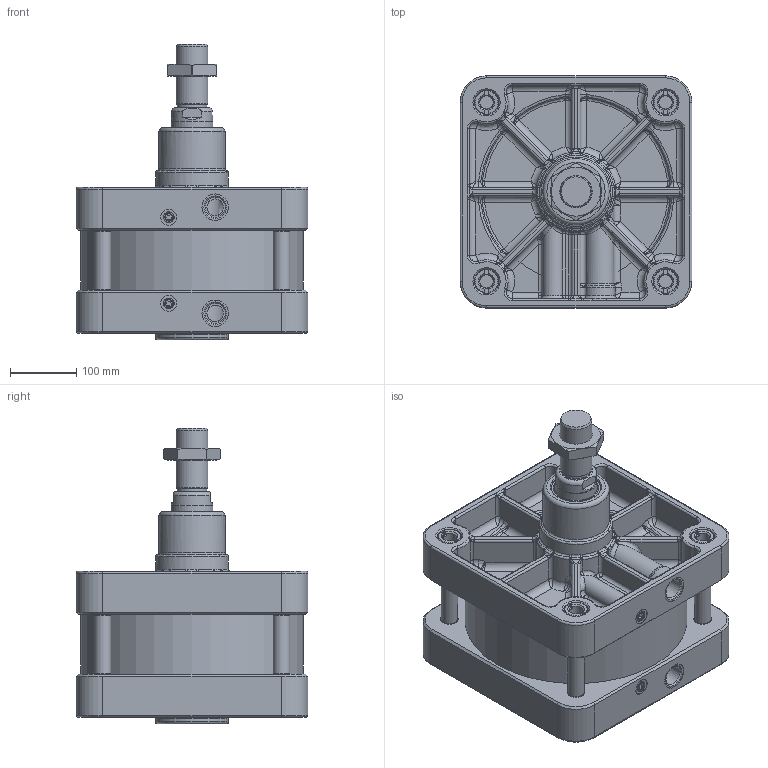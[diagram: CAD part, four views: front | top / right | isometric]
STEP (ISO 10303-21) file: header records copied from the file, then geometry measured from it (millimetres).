
FILE_DESCRIPTION(/* description */ (''),/* implementation_level */ '2;1');
FILE_NAME(/* name */ 'T:\Archivio Inventor\- 00 NUOVI STP PER SITO CON STELO CHE SI MUOVE\SERIE H - U\SERIE UDM\UDM320.---.GS.M\UDM320.000.GS.M.stp',/* time_stamp */ '2020-04-29T16:26:35+02:00',/* author */ ('carlo.corazza'),/* organization */ (''),/* preprocessor_version */ 'ST-DEVELOPER v16.5',/* originating_system */ 'Autodesk Inventor 2017',/* authorisation */ '');
FILE_SCHEMA (('AUTOMOTIVE_DESIGN { 1 0 10303 214 3 1 1 }'));
Length unit declared in the file: millimetre
Products named in the file (7): UDM320.000.GS.M; TP; STELO-000; TA; CORPO-000; TIRANTE-000; 29.2048.000.0
Assembly tree (9 placements, depth 2):
  UDM320.000.GS.M
    TP
    STELO-000
    TA
    TIRANTE-000  x4
    CORPO-000
    29.2048.000.0
Bounding box: 350 x 350 x 446 mm (x, y, z)
Volume: 11037975.2 mm3; surface area: 1467724.9 mm2
Topology: 9 solids, 16 shells, 1710 faces, 3937 edges, 2221 vertices
Faces by surface type: cylinder 439, bspline 432, plane 380, torus 252, cone 115, sphere 92
Full cylindrical faces by diameter (mm): 8 x2, 9 x1, 10 x1, 11 x2, 11.2 x2, 12 x2, 12.376 x1, 13.4 x4, 14 x2, 15.8 x4, 16 x6, 20.752 x8, 24 x10, 24.5 x8, 25 x6, 30.291 x2, 36 x9, 37 x8, 40 x2, 44.8 x1, 45.835 x1, 48 x1, 62 x1, 63 x1, 64 x1, 64.293 x1, 65.8 x1, 73 x1, 75 x3, 100 x1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
Entity records: 64917 total; most frequent: CARTESIAN_POINT 27888, DIRECTION 7314, ORIENTED_EDGE 7088, EDGE_CURVE 3544, AXIS2_PLACEMENT_3D 3113, VERTEX_POINT 2134, EDGE_LOOP 1966, FACE_OUTER_BOUND 1683
